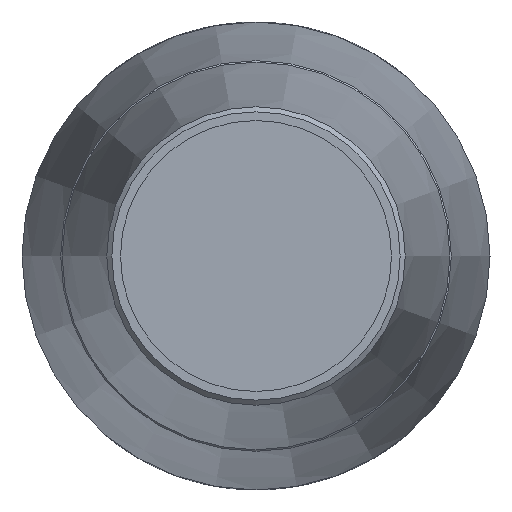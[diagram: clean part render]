
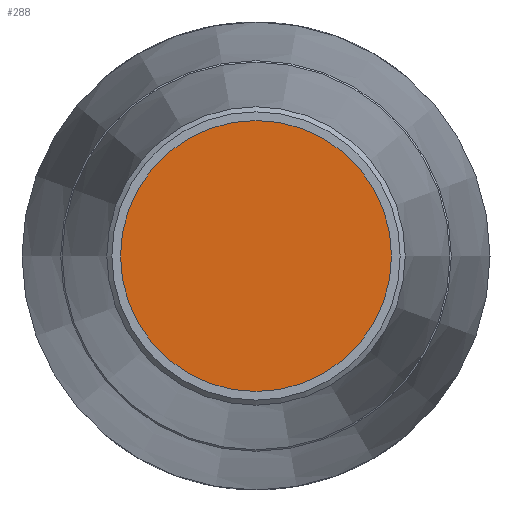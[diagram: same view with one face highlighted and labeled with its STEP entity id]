
A CAD part, left-side view. The second image highlights one B-rep face of the part: STEP entity #288.
In plain terms, the highlighted planar face has unit normal (-1, 0, 0).
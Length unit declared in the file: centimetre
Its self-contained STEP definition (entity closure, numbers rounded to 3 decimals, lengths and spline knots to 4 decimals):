
#42=PLANE('',#323);
#73=FACE_OUTER_BOUND('',#104,.T.);
#104=EDGE_LOOP('',(#210));
#132=CIRCLE('',#322,2.925);
#148=VERTEX_POINT('',#455);
#172=EDGE_CURVE('',#148,#148,#132,.T.);
#210=ORIENTED_EDGE('',*,*,#172,.T.);
#288=ADVANCED_FACE('',(#73),#42,.T.);
#322=AXIS2_PLACEMENT_3D('',#456,#383,#384);
#323=AXIS2_PLACEMENT_3D('',#457,#385,#386);
#383=DIRECTION('center_axis',(-1.,0.,0.));
#384=DIRECTION('ref_axis',(0.,0.,1.));
#385=DIRECTION('center_axis',(-1.,0.,0.));
#386=DIRECTION('ref_axis',(0.,0.,1.));
#455=CARTESIAN_POINT('',(-27.65,-2.925,0.));
#456=CARTESIAN_POINT('Origin',(-27.65,0.,0.));
#457=CARTESIAN_POINT('Origin',(-27.65,0.,0.));
